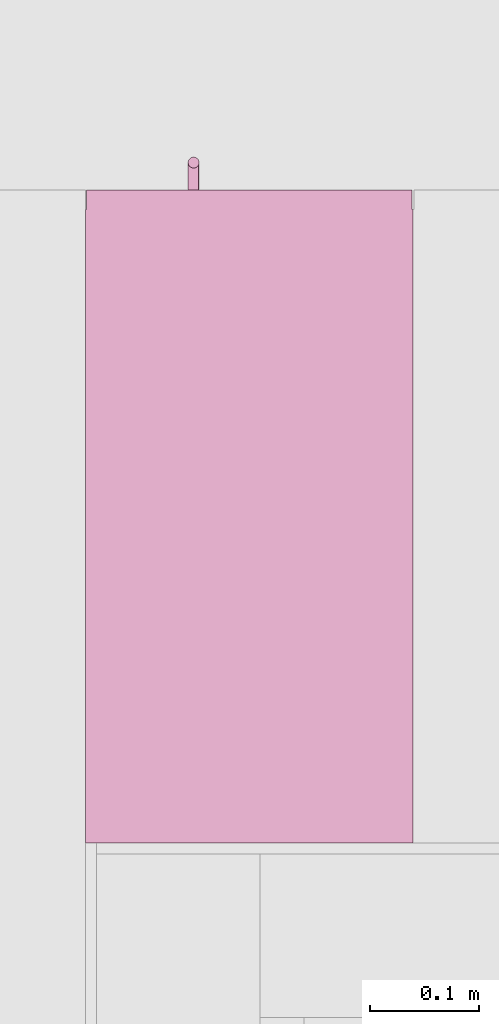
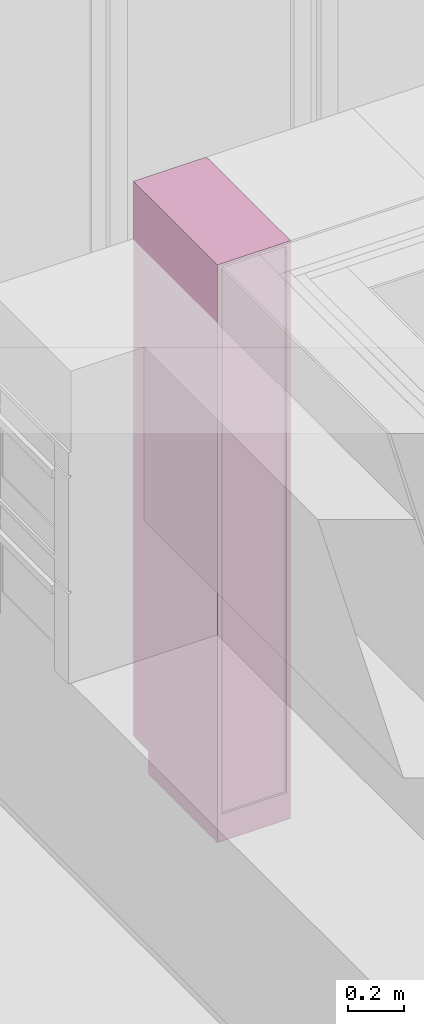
# One storey, part 32 of 34: 1 furniture element.
"""IFC4 building model written with IfcOpenShell, lengths in millimetres."""

from ifc_helpers import new_model, entity, si_unit, converted_unit, derived_unit, direction, frame, origin_with_axes, place, context, subcontext, project, spatial, polygons, source, transform, mapped, type_object, element, save


model = new_model("IFC4")

# Units and contexts
model_context = context("Model", 3, precision=0.01, world=origin_with_axes(), true_north=direction((0.0, 1.0)))
body_context = subcontext(model_context, "Body", "Model", "MODEL_VIEW")
ifc_project = project(units=[si_unit("LENGTHUNIT", "METRE", prefix="MILLI"), si_unit("AREAUNIT", "SQUARE_METRE"), si_unit("VOLUMEUNIT", "CUBIC_METRE"), converted_unit("PLANEANGLEUNIT", "DEGREE", entity("IfcPlaneAngleMeasure", 0.0174532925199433), si_unit("PLANEANGLEUNIT", "RADIAN"), dimensions=[0, 0, 0, 0, 0, 0, 0]), converted_unit("TIMEUNIT", "Year", entity("IfcTimeMeasure", 31557600.0), si_unit("TIMEUNIT", "SECOND"), dimensions=[0, 0, 1, 0, 0, 0, 0]), si_unit("MASSUNIT", "GRAM", prefix="KILO"), si_unit("THERMODYNAMICTEMPERATUREUNIT", "DEGREE_CELSIUS"), si_unit("LUMINOUSINTENSITYUNIT", "LUMEN"), si_unit("ENERGYUNIT", "JOULE", prefix="MEGA"), derived_unit("THERMALCONDUCTANCEUNIT", [(si_unit("POWERUNIT", "WATT"), 1), (si_unit("LENGTHUNIT", "METRE"), -1), (si_unit("THERMODYNAMICTEMPERATUREUNIT", "KELVIN"), -1)]), derived_unit("SPECIFICHEATCAPACITYUNIT", [(si_unit("ENERGYUNIT", "JOULE"), 1), (si_unit("MASSUNIT", "GRAM", prefix="KILO"), -1), (si_unit("THERMODYNAMICTEMPERATUREUNIT", "KELVIN"), -1)]), derived_unit("MASSDENSITYUNIT", [(si_unit("MASSUNIT", "GRAM", prefix="KILO"), 1), (si_unit("VOLUMEUNIT", "CUBIC_METRE"), -1)])], contexts=[model_context])

# Site, building, storey
site_placement = place(None, origin_with_axes())
site = spatial("IfcSite", under=ifc_project, at=site_placement, Name="Gelände", CompositionType="ELEMENT")
building_placement = place(site_placement, origin_with_axes())
building = spatial("IfcBuilding", under=site, at=building_placement, Name="Gebäude", CompositionType="ELEMENT")
storey_placement = place(building_placement, frame((0.0, 0.0, 2900.0), z_axis=(0.0, 0.0, 1.0), x_axis=(1.0, 0.0, 0.0)))
storey = spatial("IfcBuildingStorey", under=building, at=storey_placement, Name="1.OG", CompositionType="ELEMENT", Elevation=2900.0)

# Furniture
furniture_type = type_object("IfcFurnitureType", Name="Stehender Schrank Block 27", AssemblyPlace="NOTDEFINED", PredefinedType="NOTDEFINED")
shared_shape = source(origin_with_axes(), body_context, "Body", "Tessellation", [
    polygons([(201.8682408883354, -597.9999999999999, 1352.799038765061), (202.710100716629, -597.9999999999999, 1352.573463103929), (203.5000000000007, -597.9999999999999, 1352.205127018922), (204.2139380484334, -597.9999999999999, 1351.705222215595), (204.8302222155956, -597.9999999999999, 1351.088938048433), (205.3301270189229, -597.9999999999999, 1350.375), (205.6984631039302, -597.9999999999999, 1349.585100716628), (205.9240387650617, -597.9999999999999, 1348.743240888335), (206.0000000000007, -597.9999999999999, 1347.875), (205.9240387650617, -597.9999999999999, 1347.006759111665), (205.6984631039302, -597.9999999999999, 1346.164899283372), (205.3301270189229, -597.9999999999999, 1345.375), (204.8302222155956, -597.9999999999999, 1344.661061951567), (204.2139380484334, -597.9999999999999, 1344.044777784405), (203.5000000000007, -597.9999999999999, 1343.544872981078), (202.710100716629, -597.9999999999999, 1343.176536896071), (201.8682408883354, -597.9999999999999, 1342.950961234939), (201.0000000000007, -597.9999999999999, 1342.875), (200.1317591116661, -597.9999999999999, 1342.950961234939), (199.2898992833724, -597.9999999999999, 1343.176536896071), (198.5000000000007, -597.9999999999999, 1343.544872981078), (197.786061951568, -597.9999999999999, 1344.044777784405), (197.1697777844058, -597.9999999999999, 1344.661061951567), (196.6698729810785, -597.9999999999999, 1345.375), (196.3015368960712, -597.9999999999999, 1346.164899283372), (196.0759612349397, -597.9999999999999, 1347.006759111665), (196.0000000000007, -597.9999999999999, 1347.875), (196.0759612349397, -597.9999999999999, 1348.743240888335), (196.3015368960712, -597.9999999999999, 1349.585100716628), (196.6698729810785, -597.9999999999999, 1350.375), (197.1697777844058, -597.9999999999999, 1351.088938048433), (197.786061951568, -597.9999999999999, 1351.705222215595), (198.5000000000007, -597.9999999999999, 1352.205127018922), (199.2898992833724, -597.9999999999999, 1352.573463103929), (200.1317591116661, -597.9999999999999, 1352.799038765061), (201.0000000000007, -597.9999999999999, 1352.875), (201.8682408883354, -622.9999999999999, 1352.799038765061), (202.710100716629, -622.9999999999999, 1352.573463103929), (203.5000000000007, -622.9999999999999, 1352.205127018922), (204.2139380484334, -622.9999999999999, 1351.705222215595), (204.8302222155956, -622.9999999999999, 1351.088938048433), (205.3301270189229, -622.9999999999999, 1350.375), (205.6984631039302, -622.9999999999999, 1349.585100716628), (205.9240387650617, -622.9999999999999, 1348.743240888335), (206.0000000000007, -622.9999999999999, 1347.875), (205.9240387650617, -622.9999999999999, 1347.006759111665), (205.6984631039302, -622.9999999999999, 1346.164899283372), (205.3301270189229, -622.9999999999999, 1345.375), (204.8302222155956, -622.9999999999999, 1344.661061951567), (204.2139380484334, -622.9999999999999, 1344.044777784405), (203.5000000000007, -622.9999999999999, 1343.544872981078), (202.710100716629, -622.9999999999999, 1343.176536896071), (201.8682408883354, -622.9999999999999, 1342.950961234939), (201.0000000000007, -622.9999999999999, 1342.875), (200.1317591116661, -622.9999999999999, 1342.950961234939), (199.2898992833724, -622.9999999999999, 1343.176536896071), (198.5000000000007, -622.9999999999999, 1343.544872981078), (197.786061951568, -622.9999999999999, 1344.044777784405), (197.1697777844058, -622.9999999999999, 1344.661061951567), (196.6698729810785, -622.9999999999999, 1345.375), (196.3015368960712, -622.9999999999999, 1346.164899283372), (196.0759612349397, -622.9999999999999, 1347.006759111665), (196.0000000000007, -622.9999999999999, 1347.875), (196.0759612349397, -622.9999999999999, 1348.743240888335), (196.3015368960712, -622.9999999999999, 1349.585100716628), (196.6698729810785, -622.9999999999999, 1350.375), (197.1697777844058, -622.9999999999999, 1351.088938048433), (197.786061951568, -622.9999999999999, 1351.705222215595), (198.5000000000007, -622.9999999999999, 1352.205127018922), (199.2898992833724, -622.9999999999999, 1352.573463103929), (200.1317591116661, -622.9999999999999, 1352.799038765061), (201.0000000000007, -622.9999999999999, 1352.875)], [[[1, 2, 3, 4, 5, 6, 7, 8, 9, 10, 11, 12, 13, 14, 15, 16, 17, 18, 19, 20, 21, 22, 23, 24, 25, 26, 27, 28, 29, 30, 31, 32, 33, 34, 35, 36]], [[2, 1, 37, 38]], [[3, 2, 38, 39]], [[4, 3, 39, 40]], [[5, 4, 40, 41]], [[6, 5, 41, 42]], [[7, 6, 42, 43]], [[8, 7, 43, 44]], [[9, 8, 44, 45]], [[10, 9, 45, 46]], [[11, 10, 46, 47]], [[12, 11, 47, 48]], [[13, 12, 48, 49]], [[14, 13, 49, 50]], [[15, 14, 50, 51]], [[16, 15, 51, 52]], [[17, 16, 52, 53]], [[18, 17, 53, 54]], [[19, 18, 54, 55]], [[20, 19, 55, 56]], [[21, 20, 56, 57]], [[22, 21, 57, 58]], [[23, 22, 58, 59]], [[24, 23, 59, 60]], [[25, 24, 60, 61]], [[26, 25, 61, 62]], [[27, 26, 62, 63]], [[28, 27, 63, 64]], [[29, 28, 64, 65]], [[30, 29, 65, 66]], [[31, 30, 66, 67]], [[32, 31, 67, 68]], [[33, 32, 68, 69]], [[34, 33, 69, 70]], [[35, 34, 70, 71]], [[36, 35, 71, 72]], [[1, 36, 72, 37]], [[37, 72, 71, 70, 69, 68, 67, 66, 65, 64, 63, 62, 61, 60, 59, 58, 57, 56, 55, 54, 53, 52, 51, 50, 49, 48, 47, 46, 45, 44, 43, 42, 41, 40, 39, 38]]], closed=True),
    polygons([(201.8682408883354, -597.9999999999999, 1249.200961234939), (201.0000000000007, -597.9999999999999, 1249.125), (200.1317591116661, -597.9999999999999, 1249.200961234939), (199.2898992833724, -597.9999999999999, 1249.426536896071), (198.5000000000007, -597.9999999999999, 1249.794872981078), (197.786061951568, -597.9999999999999, 1250.294777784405), (197.1697777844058, -597.9999999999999, 1250.911061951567), (196.6698729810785, -597.9999999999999, 1251.625), (196.3015368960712, -597.9999999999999, 1252.414899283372), (196.0759612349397, -597.9999999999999, 1253.256759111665), (196.0000000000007, -597.9999999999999, 1254.125), (196.0759612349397, -597.9999999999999, 1254.993240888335), (196.3015368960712, -597.9999999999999, 1255.835100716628), (196.6698729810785, -597.9999999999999, 1256.625), (197.1697777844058, -597.9999999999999, 1257.338938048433), (197.786061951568, -597.9999999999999, 1257.955222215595), (198.5000000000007, -597.9999999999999, 1258.455127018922), (199.2898992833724, -597.9999999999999, 1258.823463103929), (200.1317591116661, -597.9999999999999, 1259.049038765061), (201.0000000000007, -597.9999999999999, 1259.125), (201.8682408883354, -597.9999999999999, 1259.049038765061), (202.710100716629, -597.9999999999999, 1258.823463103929), (203.5000000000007, -597.9999999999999, 1258.455127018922), (204.2139380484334, -597.9999999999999, 1257.955222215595), (204.8302222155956, -597.9999999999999, 1257.338938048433), (205.3301270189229, -597.9999999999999, 1256.625), (205.6984631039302, -597.9999999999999, 1255.835100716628), (205.9240387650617, -597.9999999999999, 1254.993240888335), (206.0000000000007, -597.9999999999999, 1254.125), (205.9240387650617, -597.9999999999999, 1253.256759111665), (205.6984631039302, -597.9999999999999, 1252.414899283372), (205.3301270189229, -597.9999999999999, 1251.625), (204.8302222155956, -597.9999999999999, 1250.911061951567), (204.2139380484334, -597.9999999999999, 1250.294777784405), (203.5000000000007, -597.9999999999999, 1249.794872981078), (202.710100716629, -597.9999999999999, 1249.426536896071), (201.8682408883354, -622.9999999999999, 1249.200961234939), (201.0000000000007, -622.9999999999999, 1249.125), (200.1317591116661, -622.9999999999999, 1249.200961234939), (199.2898992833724, -622.9999999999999, 1249.426536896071), (198.5000000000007, -622.9999999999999, 1249.794872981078), (197.786061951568, -622.9999999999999, 1250.294777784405), (197.1697777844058, -622.9999999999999, 1250.911061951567), (196.6698729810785, -622.9999999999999, 1251.625), (196.3015368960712, -622.9999999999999, 1252.414899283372), (196.0759612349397, -622.9999999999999, 1253.256759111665), (196.0000000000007, -622.9999999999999, 1254.125), (196.0759612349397, -622.9999999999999, 1254.993240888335), (196.3015368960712, -622.9999999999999, 1255.835100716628), (196.6698729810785, -622.9999999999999, 1256.625), (197.1697777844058, -622.9999999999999, 1257.338938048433), (197.786061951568, -622.9999999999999, 1257.955222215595), (198.5000000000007, -622.9999999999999, 1258.455127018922), (199.2898992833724, -622.9999999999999, 1258.823463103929), (200.1317591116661, -622.9999999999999, 1259.049038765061), (201.0000000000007, -622.9999999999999, 1259.125), (201.8682408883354, -622.9999999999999, 1259.049038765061), (202.710100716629, -622.9999999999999, 1258.823463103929), (203.5000000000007, -622.9999999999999, 1258.455127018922), (204.2139380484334, -622.9999999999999, 1257.955222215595), (204.8302222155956, -622.9999999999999, 1257.338938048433), (205.3301270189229, -622.9999999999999, 1256.625), (205.6984631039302, -622.9999999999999, 1255.835100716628), (205.9240387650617, -622.9999999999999, 1254.993240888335), (206.0000000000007, -622.9999999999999, 1254.125), (205.9240387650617, -622.9999999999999, 1253.256759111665), (205.6984631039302, -622.9999999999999, 1252.414899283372), (205.3301270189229, -622.9999999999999, 1251.625), (204.8302222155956, -622.9999999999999, 1250.911061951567), (204.2139380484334, -622.9999999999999, 1250.294777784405), (203.5000000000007, -622.9999999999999, 1249.794872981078), (202.710100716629, -622.9999999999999, 1249.426536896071)], [[[1, 2, 3, 4, 5, 6, 7, 8, 9, 10, 11, 12, 13, 14, 15, 16, 17, 18, 19, 20, 21, 22, 23, 24, 25, 26, 27, 28, 29, 30, 31, 32, 33, 34, 35, 36]], [[1, 37, 38, 2]], [[2, 38, 39, 3]], [[3, 39, 40, 4]], [[4, 40, 41, 5]], [[5, 41, 42, 6]], [[6, 42, 43, 7]], [[7, 43, 44, 8]], [[8, 44, 45, 9]], [[9, 45, 46, 10]], [[10, 46, 47, 11]], [[11, 47, 48, 12]], [[12, 48, 49, 13]], [[13, 49, 50, 14]], [[14, 50, 51, 15]], [[15, 51, 52, 16]], [[16, 52, 53, 17]], [[17, 53, 54, 18]], [[18, 54, 55, 19]], [[19, 55, 56, 20]], [[20, 56, 57, 21]], [[21, 57, 58, 22]], [[22, 58, 59, 23]], [[23, 59, 60, 24]], [[24, 60, 61, 25]], [[25, 61, 62, 26]], [[26, 62, 63, 27]], [[27, 63, 64, 28]], [[28, 64, 65, 29]], [[29, 65, 66, 30]], [[30, 66, 67, 31]], [[31, 67, 68, 32]], [[32, 68, 69, 33]], [[33, 69, 70, 34]], [[34, 70, 71, 35]], [[35, 71, 72, 36]], [[36, 72, 37, 1]], [[37, 72, 71, 70, 69, 68, 67, 66, 65, 64, 63, 62, 61, 60, 59, 58, 57, 56, 55, 54, 53, 52, 51, 50, 49, 48, 47, 46, 45, 44, 43, 42, 41, 40, 39, 38]]], closed=True),
    polygons([(201.8682408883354, -618.0759612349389, 1226.0), (202.710100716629, -618.3015368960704, 1226.0), (203.5000000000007, -618.6698729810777, 1226.0), (204.2139380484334, -619.1697777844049, 1226.0), (204.8302222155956, -619.7860619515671, 1226.0), (205.3301270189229, -620.4999999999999, 1226.0), (205.6984631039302, -621.2898992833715, 1226.0), (205.9240387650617, -622.1317591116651, 1226.0), (206.0000000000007, -622.9999999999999, 1226.0), (205.9240387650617, -623.8682408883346, 1226.0), (205.6984631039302, -624.7101007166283, 1226.0), (205.3301270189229, -625.4999999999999, 1226.0), (204.8302222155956, -626.2139380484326, 1226.0), (204.2139380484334, -626.8302222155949, 1226.0), (203.5000000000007, -627.3301270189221, 1226.0), (202.710100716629, -627.6984631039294, 1226.0), (201.8682408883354, -627.924038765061, 1226.0), (201.0000000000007, -627.9999999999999, 1226.0), (200.1317591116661, -627.924038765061, 1226.0), (199.2898992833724, -627.6984631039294, 1226.0), (198.5000000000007, -627.3301270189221, 1226.0), (197.786061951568, -626.8302222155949, 1226.0), (197.1697777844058, -626.2139380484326, 1226.0), (196.6698729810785, -625.4999999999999, 1226.0), (196.3015368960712, -624.7101007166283, 1226.0), (196.0759612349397, -623.8682408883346, 1226.0), (196.0000000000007, -622.9999999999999, 1226.0), (196.0759612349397, -622.1317591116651, 1226.0), (196.3015368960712, -621.2898992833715, 1226.0), (196.6698729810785, -620.4999999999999, 1226.0), (197.1697777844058, -619.7860619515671, 1226.0), (197.786061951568, -619.1697777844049, 1226.0), (198.5000000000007, -618.6698729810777, 1226.0), (199.2898992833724, -618.3015368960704, 1226.0), (200.1317591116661, -618.0759612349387, 1226.0), (201.0000000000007, -617.9999999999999, 1226.0), (201.8682408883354, -618.0759612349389, 1376.0), (202.7101007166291, -618.3015368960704, 1376.0), (203.5000000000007, -618.6698729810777, 1376.0), (204.2139380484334, -619.1697777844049, 1376.0), (204.8302222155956, -619.7860619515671, 1376.0), (205.3301270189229, -620.4999999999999, 1376.0), (205.6984631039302, -621.2898992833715, 1376.0), (205.9240387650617, -622.1317591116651, 1376.0), (206.0000000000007, -622.9999999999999, 1376.0), (205.9240387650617, -623.8682408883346, 1376.0), (205.6984631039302, -624.7101007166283, 1376.0), (205.3301270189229, -625.4999999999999, 1376.0), (204.8302222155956, -626.2139380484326, 1376.0), (204.2139380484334, -626.8302222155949, 1376.0), (203.5000000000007, -627.3301270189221, 1376.0), (202.7101007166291, -627.6984631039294, 1376.0), (201.8682408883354, -627.924038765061, 1376.0), (201.0000000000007, -627.9999999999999, 1376.0), (200.1317591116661, -627.924038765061, 1376.0), (199.2898992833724, -627.6984631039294, 1376.0), (198.5000000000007, -627.3301270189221, 1376.0), (197.786061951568, -626.8302222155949, 1376.0), (197.1697777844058, -626.2139380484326, 1376.0), (196.6698729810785, -625.4999999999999, 1376.0), (196.3015368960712, -624.7101007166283, 1376.0), (196.0759612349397, -623.8682408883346, 1376.0), (196.0000000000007, -622.9999999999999, 1376.0), (196.0759612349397, -622.1317591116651, 1376.0), (196.3015368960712, -621.2898992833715, 1376.0), (196.6698729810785, -620.4999999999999, 1376.0), (197.1697777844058, -619.7860619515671, 1376.0), (197.786061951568, -619.1697777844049, 1376.0), (198.5000000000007, -618.6698729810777, 1376.0), (199.2898992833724, -618.3015368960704, 1376.0), (200.1317591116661, -618.0759612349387, 1376.0), (201.0000000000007, -617.9999999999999, 1376.0)], [[[1, 2, 3, 4, 5, 6, 7, 8, 9, 10, 11, 12, 13, 14, 15, 16, 17, 18, 19, 20, 21, 22, 23, 24, 25, 26, 27, 28, 29, 30, 31, 32, 33, 34, 35, 36]], [[2, 1, 37, 38]], [[3, 2, 38, 39]], [[4, 3, 39, 40]], [[5, 4, 40, 41]], [[6, 5, 41, 42]], [[7, 6, 42, 43]], [[8, 7, 43, 44]], [[9, 8, 44, 45]], [[10, 9, 45, 46]], [[11, 10, 46, 47]], [[12, 11, 47, 48]], [[13, 12, 48, 49]], [[14, 13, 49, 50]], [[15, 14, 50, 51]], [[16, 15, 51, 52]], [[17, 16, 52, 53]], [[18, 17, 53, 54]], [[19, 18, 54, 55]], [[20, 19, 55, 56]], [[21, 20, 56, 57]], [[22, 21, 57, 58]], [[23, 22, 58, 59]], [[24, 23, 59, 60]], [[25, 24, 60, 61]], [[26, 25, 61, 62]], [[27, 26, 62, 63]], [[28, 27, 63, 64]], [[29, 28, 64, 65]], [[30, 29, 65, 66]], [[31, 30, 66, 67]], [[32, 31, 67, 68]], [[33, 32, 68, 69]], [[34, 33, 69, 70]], [[35, 34, 70, 71]], [[36, 35, 71, 72]], [[1, 36, 72, 37]], [[37, 72, 71, 70, 69, 68, 67, 66, 65, 64, 63, 62, 61, 60, 59, 58, 57, 56, 55, 54, 53, 52, 51, 50, 49, 48, 47, 46, 45, 44, 43, 42, 41, 40, 39, 38]]], closed=True),
    polygons([(1.0, -580.0, 101.0), (299.0000000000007, -580.0, 101.0), (299.0000000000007, -598.0, 101.0), (1.0, -598.0, 101.0), (1.0, -579.9999999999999, 2499.0), (299.0000000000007, -579.9999999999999, 2499.0), (299.0000000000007, -597.9999999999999, 2499.0), (1.0, -597.9999999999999, 2499.0)], [[[1, 2, 3, 4]], [[1, 5, 6, 2]], [[2, 6, 7, 3]], [[4, 3, 7, 8]], [[5, 1, 4, 8]], [[6, 5, 8, 7]]], closed=True),
    polygons([(18.0, -580.0, 100.0), (282.0000000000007, -580.0, 100.0), (282.0000000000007, -580.0, 118.0), (18.0, -580.0, 118.0), (18.0, 0.0, 100.0), (282.0000000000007, 0.0, 100.0), (282.0000000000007, 0.0, 118.0), (18.0, 0.0, 118.0)], [[[1, 2, 3, 4]], [[1, 5, 6, 2]], [[2, 6, 7, 3]], [[4, 3, 7, 8]], [[5, 1, 4, 8]], [[6, 5, 8, 7]]], closed=True),
    polygons([(18.0, -580.0, 2482.0), (282.0000000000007, -580.0, 2482.0), (282.0000000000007, -580.0, 2500.0), (18.0, -580.0, 2500.0), (18.0, 0.0, 2482.0), (282.0000000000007, 0.0, 2482.0), (282.0000000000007, 0.0, 2500.0), (18.0, 0.0, 2500.0)], [[[1, 2, 3, 4]], [[1, 5, 6, 2]], [[2, 6, 7, 3]], [[4, 3, 7, 8]], [[5, 1, 4, 8]], [[6, 5, 8, 7]]], closed=True),
    polygons([(0.0, 0.0, 100.0), (0.0, -580.0, 100.0), (0.0, -580.0, 2500.0), (0.0, 0.0, 2500.0), (18.0, 0.0, 100.0), (18.0, -580.0, 100.0), (18.0, -580.0, 2500.0), (18.0, 0.0, 2500.0)], [[[1, 2, 3, 4]], [[1, 5, 6, 2]], [[2, 6, 7, 3]], [[4, 3, 7, 8]], [[5, 1, 4, 8]], [[6, 5, 8, 7]]], closed=True),
    polygons([(300.0000000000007, -580.0, 100.0), (300.0000000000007, 0.0, 100.0), (300.0000000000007, 0.0, 2500.0), (300.0000000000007, -580.0, 2500.0), (282.0000000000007, -580.0, 100.0), (282.0000000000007, 0.0, 100.0), (282.0000000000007, 0.0, 2500.0), (282.0000000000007, -580.0, 2500.0)], [[[1, 2, 3, 4]], [[1, 5, 6, 2]], [[2, 6, 7, 3]], [[4, 3, 7, 8]], [[5, 1, 4, 8]], [[6, 5, 8, 7]]], closed=True),
    polygons([(282.0000000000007, -9.0, 118.0), (18.00000000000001, -9.0, 118.0), (18.00000000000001, -9.0, 2482.0), (282.0000000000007, -9.0, 2482.0), (282.0000000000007, -18.0, 118.0), (18.00000000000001, -18.0, 118.0), (18.00000000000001, -18.0, 2482.0), (282.0000000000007, -18.0, 2482.0)], [[[1, 2, 3, 4]], [[1, 5, 6, 2]], [[2, 6, 7, 3]], [[4, 3, 7, 8]], [[5, 1, 4, 8]], [[6, 5, 8, 7]]], closed=True),
    polygons([(0.0, -490.0, 0.0), (300.0000000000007, -490.0, 0.0), (300.0000000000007, -490.0, 100.0), (0.0, -490.0, 100.0), (0.0, 0.0, 0.0), (300.0000000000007, 0.0, 0.0), (300.0000000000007, 0.0, 100.0), (0.0, 0.0, 100.0)], [[[1, 2, 3, 4]], [[1, 5, 6, 2]], [[2, 6, 7, 3]], [[4, 3, 7, 8]], [[5, 1, 4, 8]], [[6, 5, 8, 7]]], closed=True),
])
furniture_placement = place(storey_placement, frame((8328.997444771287, 34847.59728131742, 149.9999999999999), z_axis=(0.0, 0.0, 1.0), x_axis=(-1.0, 0.0, 0.0)))
element("IfcFurniture", 1, at=furniture_placement, inside=storey, type_object=furniture_type, Name="Möbel-021", PredefinedType="NOTDEFINED", context=body_context, shape_type="MappedRepresentation", body=[
    mapped(shared_shape, transform((0.0, 0.0, 0.0))),
])

save(model, "model.ifc")
